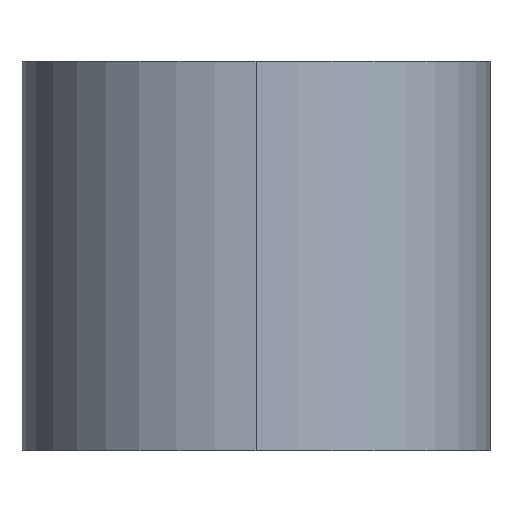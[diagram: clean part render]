
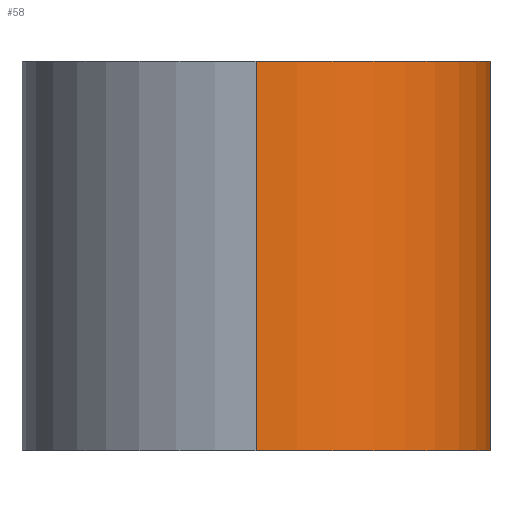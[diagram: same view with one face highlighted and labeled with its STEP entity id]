
A CAD part, left-side view. The second image highlights one B-rep face of the part: STEP entity #58.
In plain terms, the highlighted cylindrical face has radius 11.43 mm (diameter 22.86 mm), a partial arc.
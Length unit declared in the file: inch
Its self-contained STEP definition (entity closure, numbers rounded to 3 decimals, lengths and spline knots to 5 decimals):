
#35 = CIRCLE ( 'NONE', #221, 0.45 ) ;
#40 = CYLINDRICAL_SURFACE ( 'NONE', #54, 0.45 ) ;
#54 = AXIS2_PLACEMENT_3D ( 'NONE', #344, #515, #307 ) ;
#58 = ADVANCED_FACE ( 'NONE', ( #126 ), #40, .T. ) ;
#81 = CIRCLE ( 'NONE', #395, 0.45 ) ;
#91 = EDGE_CURVE ( 'NONE', #123, #543, #148, .T. ) ;
#98 = DIRECTION ( 'NONE',  ( 0., 0., 1. ) ) ;
#113 = CARTESIAN_POINT ( 'NONE',  ( -0.95, 0., 0. ) ) ;
#114 = ORIENTED_EDGE ( 'NONE', *, *, #185, .T. ) ;
#123 = VERTEX_POINT ( 'NONE', #411 ) ;
#126 = FACE_OUTER_BOUND ( 'NONE', #538, .T. ) ;
#148 = LINE ( 'NONE', #230, #210 ) ;
#166 = ORIENTED_EDGE ( 'NONE', *, *, #322, .T. ) ;
#185 = EDGE_CURVE ( 'NONE', #195, #227, #371, .T. ) ;
#194 = DIRECTION ( 'NONE',  ( 0., 0., -1. ) ) ;
#195 = VERTEX_POINT ( 'NONE', #496 ) ;
#210 = VECTOR ( 'NONE', #222, 39.37008 ) ;
#221 = AXIS2_PLACEMENT_3D ( 'NONE', #495, #98, #320 ) ;
#222 = DIRECTION ( 'NONE',  ( 0., 0., -1. ) ) ;
#227 = VERTEX_POINT ( 'NONE', #113 ) ;
#230 = CARTESIAN_POINT ( 'NONE',  ( -0.5, -0.45, 0.75 ) ) ;
#236 = DIRECTION ( 'NONE',  ( 1., 0., 0. ) ) ;
#265 = VECTOR ( 'NONE', #194, 39.37008 ) ;
#273 = DIRECTION ( 'NONE',  ( 0., 0., 1. ) ) ;
#296 = CARTESIAN_POINT ( 'NONE',  ( -0.95, 0., 0.75 ) ) ;
#307 = DIRECTION ( 'NONE',  ( -1., 0., 0. ) ) ;
#320 = DIRECTION ( 'NONE',  ( 1., 0., 0. ) ) ;
#322 = EDGE_CURVE ( 'NONE', #227, #543, #35, .T. ) ;
#323 = CARTESIAN_POINT ( 'NONE',  ( -0.5, 0., 0.75 ) ) ;
#344 = CARTESIAN_POINT ( 'NONE',  ( -0.5, 0., 0.75 ) ) ;
#345 = CARTESIAN_POINT ( 'NONE',  ( -0.5, -0.45, 0. ) ) ;
#354 = EDGE_CURVE ( 'NONE', #195, #123, #81, .T. ) ;
#371 = LINE ( 'NONE', #296, #265 ) ;
#395 = AXIS2_PLACEMENT_3D ( 'NONE', #323, #273, #236 ) ;
#411 = CARTESIAN_POINT ( 'NONE',  ( -0.5, -0.45, 0.75 ) ) ;
#495 = CARTESIAN_POINT ( 'NONE',  ( -0.5, 0., 0. ) ) ;
#496 = CARTESIAN_POINT ( 'NONE',  ( -0.95, 0., 0.75 ) ) ;
#515 = DIRECTION ( 'NONE',  ( 0., 0., -1. ) ) ;
#521 = ORIENTED_EDGE ( 'NONE', *, *, #91, .F. ) ;
#538 = EDGE_LOOP ( 'NONE', ( #550, #114, #166, #521 ) ) ;
#543 = VERTEX_POINT ( 'NONE', #345 ) ;
#550 = ORIENTED_EDGE ( 'NONE', *, *, #354, .F. ) ;
